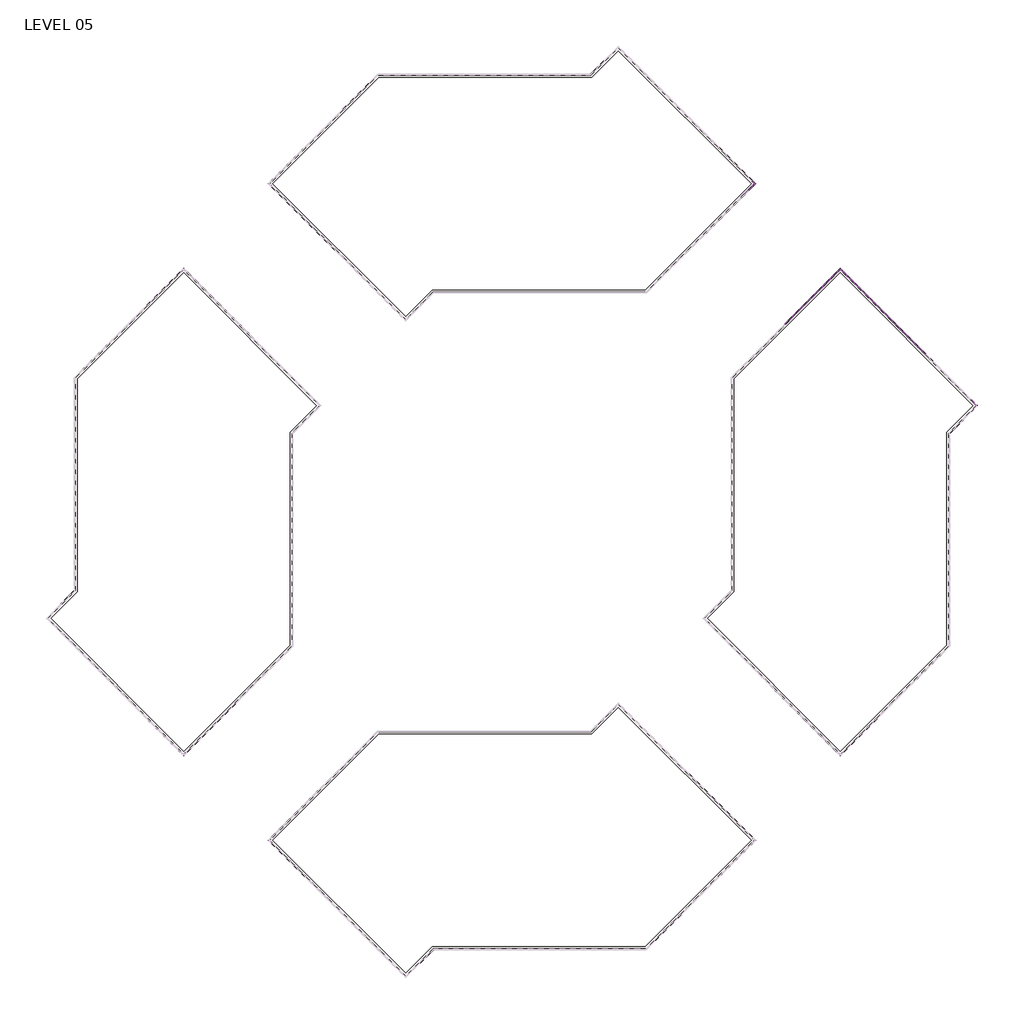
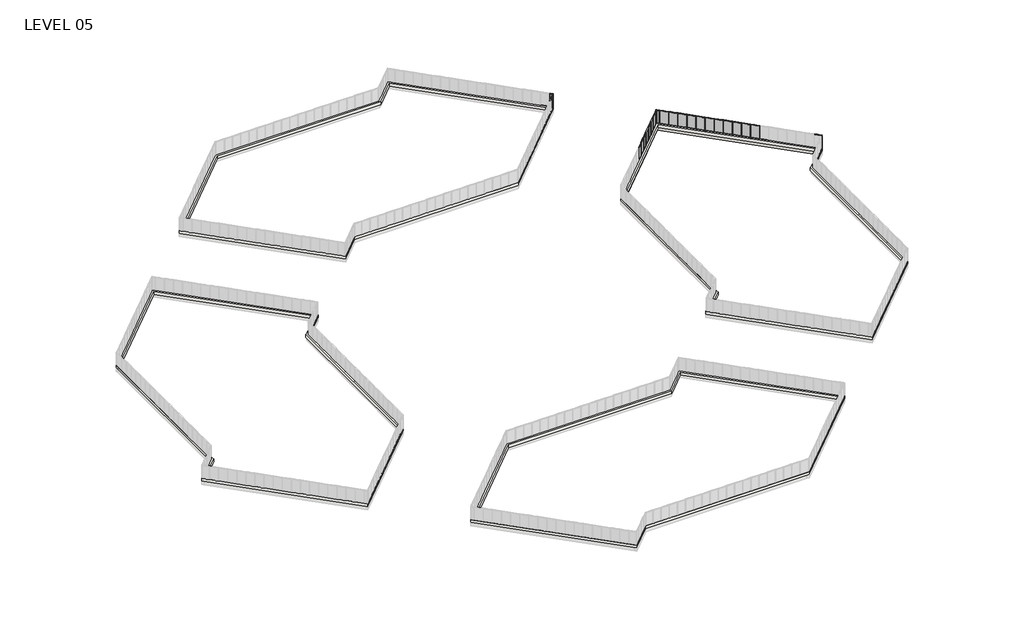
# One storey, part 17 of 17: 75 members, 22 plates, 4 slabs, 2 walls.
"""IFC4 building model written with IfcOpenShell, lengths in millimetres."""

from ifc_helpers import new_model, si_unit, frame, origin, place, context, project, spatial, polyline, outline, extrude, faceted_brep, transform, mapped, element, save
from components import member_5247f267, member_e44af9ab, member_800970d4, member_25b26a38, member_c23f844a, member_53409b32, member_ed9c17d6, member_0b71a88d, plate_6d527a83, plate_67294edd, plate_aaac5d3d, plate_50b9cd61, plate_048e4634, plate_e0fd5134, plate_62af1d3c, plate_dca6a18a

model = new_model("IFC4")

# Units and contexts
model_context = context("Model", 3, world=origin())
ifc_project = project(units=[si_unit("LENGTHUNIT", "METRE", prefix="MILLI")], contexts=[model_context])

# Site, building, storey
site = spatial("IfcSite", under=ifc_project)
building = spatial("IfcBuilding", under=site)
storey = spatial("IfcBuildingStorey", under=building, Name="LEVEL 05", Elevation=15824.2)

# Members
placement = place(None, origin())
member_shape = member_5247f267(model_context)
element("IfcMember", 1, ObjectType="Rectangular Mullion : 2\" x 4.5\" rectangular", at=placement, inside=storey, context=model_context, shape_type="MappedRepresentation", body=[
    mapped(member_shape, transform((64227.3404937, 104942.2679469, 15824.2), x_axis=(0.0, 0.0, -1.0), y_axis=(0.7071067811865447, 0.7071067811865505, 0.0), z_axis=(0.7071067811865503, -0.7071067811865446, 0.0))),
])
element("IfcMember", 2, ObjectType="Rectangular Mullion : 2\" x 4.5\" rectangular", at=placement, inside=storey, context=model_context, shape_type="MappedRepresentation", body=[
    mapped(member_shape, transform((64227.3404937, 104141.486663, 18415.0), x_axis=(0.0, 0.0, 1.0), y_axis=(0.7071067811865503, -0.7071067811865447, 0.0), z_axis=(0.7071067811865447, 0.7071067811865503, 0.0))),
])
member_2_shape = member_e44af9ab(model_context)
element("IfcMember", 3, ObjectType="Rectangular Mullion : 2\" x 4.5\" rectangular", at=placement, inside=storey, context=model_context, shape_type="MappedRepresentation", body=[
    mapped(member_2_shape, transform((64245.3010059, 104159.4471752, 15824.2), x_axis=(0.7071067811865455, 0.7071067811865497, 0.0), y_axis=(0.7071067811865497, -0.7071067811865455, 0.0), z_axis=(0.0, 0.0, -1.0))),
])
element("IfcMember", 4, ObjectType="Rectangular Mullion : 2\" x 4.5\" rectangular", at=placement, inside=storey, context=model_context, shape_type="MappedRepresentation", body=[
    mapped(member_2_shape, transform((64245.3010059, 104924.3074346, 15824.2), x_axis=(-0.7071067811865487, 0.7071067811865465, 0.0), y_axis=(0.7071067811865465, 0.7071067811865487, 0.0), z_axis=(0.0, 0.0, -1.0))),
])
member_3_shape = member_800970d4(model_context)
element("IfcMember", 5, ObjectType="Rectangular Mullion : 2\" x 4.5\" rectangular", at=placement, inside=storey, context=model_context, shape_type="MappedRepresentation", body=[
    mapped(member_3_shape, transform((64627.7311356, 104541.8773049, 15824.2), x_axis=(0.7071067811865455, 0.7071067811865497, 0.0), y_axis=(0.7071067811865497, -0.7071067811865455, 0.0), z_axis=(0.0, 0.0, -1.0))),
])
element("IfcMember", 6, ObjectType="Rectangular Mullion : 2\" x 4.5\" rectangular", at=placement, inside=storey, context=model_context, shape_type="MappedRepresentation", body=[
    mapped(member_3_shape, transform((64627.7311356, 104541.8773049, 18415.0), x_axis=(0.7071067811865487, -0.7071067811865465, 0.0), y_axis=(0.7071067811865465, 0.7071067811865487, 0.0), z_axis=(0.0, 0.0, 1.0))),
])
member_4_shape = member_25b26a38(model_context)
element("IfcMember", 7, ObjectType="Rectangular Mullion : 2\" x 4.5\" rectangular", at=placement, inside=storey, context=model_context, shape_type="MappedRepresentation", body=[
    mapped(member_4_shape, transform((64263.2615182, 104177.4076875, 15824.2), x_axis=(0.0, 0.0, -1.0), y_axis=(0.7071067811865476, -0.7071067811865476, 0.0), z_axis=(-0.7071067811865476, -0.7071067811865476, 0.0))),
])
element("IfcMember", 8, ObjectType="Rectangular Mullion : 2\" x 4.5\" rectangular", at=placement, inside=storey, context=model_context, shape_type="MappedRepresentation", body=[
    mapped(member_4_shape, transform((64591.8101111, 104577.7983294, 15824.2), x_axis=(0.0, 0.0, -1.0), y_axis=(0.7071067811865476, 0.7071067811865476, 0.0), z_axis=(0.7071067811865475, -0.7071067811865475, 0.0))),
])
element("IfcMember", 9, ObjectType="Rectangular Mullion : 2\" x 4.5\" rectangular", at=placement, inside=storey, context=model_context, shape_type="MappedRepresentation", body=[
    mapped(member_4_shape, transform((64591.8101111, 104505.9562804, 18415.0), x_axis=(0.0, 0.0, 1.0), y_axis=(0.7071067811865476, -0.7071067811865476, 0.0), z_axis=(0.7071067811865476, 0.7071067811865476, 0.0))),
])
element("IfcMember", 10, ObjectType="Rectangular Mullion : 2\" x 4.5\" rectangular", at=placement, inside=storey, context=model_context, shape_type="MappedRepresentation", body=[
    mapped(member_4_shape, transform((64263.2615182, 104906.3469224, 18415.0), x_axis=(0.0, 0.0, 1.0), y_axis=(0.7071067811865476, 0.7071067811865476, 0.0), z_axis=(-0.7071067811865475, 0.7071067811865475, 0.0))),
])
element("IfcMember", 11, ObjectType="Rectangular Mullion : 2\" x 4.5\" rectangular", at=placement, inside=storey, context=model_context, shape_type="MappedRepresentation", body=[
    mapped(member_shape, transform((69983.7142707, 85453.6032785, 18415.0), x_axis=(0.0, 0.0, 1.0), y_axis=(0.7071067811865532, -0.7071067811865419, 0.0), z_axis=(0.7071067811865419, 0.7071067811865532, 0.0))),
])
element("IfcMember", 12, ObjectType="Rectangular Mullion : 2\" x 4.5\" rectangular", at=placement, inside=storey, context=model_context, shape_type="MappedRepresentation", body=[
    mapped(member_shape, transform((71061.3302035, 86531.2192113, 18415.0), x_axis=(0.0, 0.0, 1.0), y_axis=(0.7071067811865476, -0.7071067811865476, 0.0), z_axis=(0.7071067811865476, 0.7071067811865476, 0.0))),
])
element("IfcMember", 13, ObjectType="Rectangular Mullion : 2\" x 4.5\" rectangular", at=placement, inside=storey, context=model_context, shape_type="MappedRepresentation", body=[
    mapped(member_shape, transform((73216.5768709, 88686.4658786, 18415.0), x_axis=(0.0, 0.0, 1.0), y_axis=(0.7071067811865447, -0.7071067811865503, 0.0), z_axis=(0.7071067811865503, 0.7071067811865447, 0.0))),
])
element("IfcMember", 14, ObjectType="Rectangular Mullion : 2\" x 4.5\" rectangular", at=placement, inside=storey, context=model_context, shape_type="MappedRepresentation", body=[
    mapped(member_shape, transform((72138.9535372, 87608.842545, 18415.0), x_axis=(0.0, 0.0, 1.0), y_axis=(0.7071067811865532, -0.7071067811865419, 0.0), z_axis=(0.7071067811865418, 0.7071067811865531, 0.0))),
])
element("IfcMember", 15, ObjectType="Rectangular Mullion : 2\" x 4.5\" rectangular", at=placement, inside=storey, context=model_context, shape_type="MappedRepresentation", body=[
    mapped(member_shape, transform((74294.2076054, 89764.0966131, 18415.0), x_axis=(0.0, 0.0, 1.0), y_axis=(0.7071067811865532, -0.7071067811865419, 0.0), z_axis=(0.7071067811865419, 0.7071067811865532, 0.0))),
])
element("IfcMember", 16, ObjectType="Rectangular Mullion : 2\" x 4.5\" rectangular", at=placement, inside=storey, context=model_context, shape_type="MappedRepresentation", body=[
    mapped(member_shape, transform((75371.8383399, 90841.7273477, 18415.0), x_axis=(0.0, 0.0, 1.0), y_axis=(0.7071067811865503, -0.7071067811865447, 0.0), z_axis=(0.7071067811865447, 0.7071067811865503, 0.0))),
])
element("IfcMember", 17, ObjectType="Rectangular Mullion : 2\" x 4.5\" rectangular", at=placement, inside=storey, context=model_context, shape_type="MappedRepresentation", body=[
    mapped(member_shape, transform((76449.4690745, 91919.3580822, 18415.0), x_axis=(0.0, 0.0, 1.0), y_axis=(0.7071067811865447, -0.7071067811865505, 0.0), z_axis=(0.7071067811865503, 0.7071067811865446, 0.0))),
])
element("IfcMember", 18, ObjectType="Rectangular Mullion : 2\" x 4.5\" rectangular", at=placement, inside=storey, context=model_context, shape_type="MappedRepresentation", body=[
    mapped(member_shape, transform((79369.5908029, 89800.0176376, 18415.0), x_axis=(0.0, 0.0, 1.0), y_axis=(-0.7071067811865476, -0.7071067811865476, 0.0), z_axis=(0.7071067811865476, -0.7071067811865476, 0.0))),
])
element("IfcMember", 19, ObjectType="Rectangular Mullion : 2\" x 4.5\" rectangular", at=placement, inside=storey, context=model_context, shape_type="MappedRepresentation", body=[
    mapped(member_shape, transform((80447.2215374, 88722.3869031, 18415.0), x_axis=(0.0, 0.0, 1.0), y_axis=(-0.7071067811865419, -0.7071067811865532, 0.0), z_axis=(0.7071067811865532, -0.7071067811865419, 0.0))),
])
element("IfcMember", 20, ObjectType="Rectangular Mullion : 2\" x 4.5\" rectangular", at=placement, inside=storey, context=model_context, shape_type="MappedRepresentation", body=[
    mapped(member_shape, transform((82602.447272, 86567.1611686, 18415.0), x_axis=(0.0, 0.0, 1.0), y_axis=(-0.7071067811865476, -0.7071067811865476, 0.0), z_axis=(0.7071067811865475, -0.7071067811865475, 0.0))),
])
element("IfcMember", 21, ObjectType="Rectangular Mullion : 2\" x 4.5\" rectangular", at=placement, inside=storey, context=model_context, shape_type="MappedRepresentation", body=[
    mapped(member_shape, transform((83680.042272, 85489.5661686, 18415.0), x_axis=(0.0, 0.0, 1.0), y_axis=(-0.7071067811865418, -0.7071067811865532, 0.0), z_axis=(0.7071067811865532, -0.7071067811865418, 0.0))),
])
element("IfcMember", 22, ObjectType="Rectangular Mullion : 2\" x 4.5\" rectangular", at=placement, inside=storey, context=model_context, shape_type="MappedRepresentation", body=[
    mapped(member_shape, transform((84757.637272, 84411.9711686, 18415.0), x_axis=(0.0, 0.0, 1.0), y_axis=(-0.7071067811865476, -0.7071067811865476, 0.0), z_axis=(0.7071067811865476, -0.7071067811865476, 0.0))),
])
element("IfcMember", 23, ObjectType="Rectangular Mullion : 2\" x 4.5\" rectangular", at=placement, inside=storey, context=model_context, shape_type="MappedRepresentation", body=[
    mapped(member_shape, transform((85835.232272, 83334.3761686, 18415.0), x_axis=(0.0, 0.0, 1.0), y_axis=(-0.7071067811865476, -0.7071067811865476, 0.0), z_axis=(0.7071067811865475, -0.7071067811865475, 0.0))),
])
element("IfcMember", 24, ObjectType="Rectangular Mullion : 2\" x 4.5\" rectangular", at=placement, inside=storey, context=model_context, shape_type="MappedRepresentation", body=[
    mapped(member_shape, transform((78291.9600684, 90877.6483722, 18415.0), x_axis=(0.0, 0.0, 1.0), y_axis=(-0.7071067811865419, -0.7071067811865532, 0.0), z_axis=(0.7071067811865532, -0.7071067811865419, 0.0))),
])
element("IfcMember", 25, ObjectType="Rectangular Mullion : 2\" x 4.5\" rectangular", at=placement, inside=storey, context=model_context, shape_type="MappedRepresentation", body=[
    mapped(member_shape, transform((81524.8344047, 87644.7740358, 18415.0), x_axis=(0.0, 0.0, 1.0), y_axis=(-0.7071067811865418, -0.7071067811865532, 0.0), z_axis=(0.7071067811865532, -0.7071067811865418, 0.0))),
])
element("IfcMember", 26, ObjectType="Rectangular Mullion : 2\" x 4.5\" rectangular", at=placement, inside=storey, context=model_context, shape_type="MappedRepresentation", body=[
    mapped(member_shape, transform((70019.6352952, 85489.524303, 15824.2), x_axis=(0.0, 0.0, -1.0), y_axis=(0.7071067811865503, -0.7071067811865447, 0.0), z_axis=(-0.7071067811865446, -0.7071067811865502, 0.0))),
])
element("IfcMember", 27, ObjectType="Rectangular Mullion : 2\" x 4.5\" rectangular", at=placement, inside=storey, context=model_context, shape_type="MappedRepresentation", body=[
    mapped(member_shape, transform((71097.251228, 86567.1402358, 15824.2), x_axis=(0.0, 0.0, -1.0), y_axis=(0.7071067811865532, -0.7071067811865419, 0.0), z_axis=(-0.7071067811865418, -0.7071067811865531, 0.0))),
])
element("IfcMember", 28, ObjectType="Rectangular Mullion : 2\" x 4.5\" rectangular", at=placement, inside=storey, context=model_context, shape_type="MappedRepresentation", body=[
    mapped(member_shape, transform((73252.4978954, 88722.3869031, 15824.2), x_axis=(0.0, 0.0, -1.0), y_axis=(0.7071067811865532, -0.7071067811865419, 0.0), z_axis=(-0.7071067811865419, -0.7071067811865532, 0.0))),
])
element("IfcMember", 29, ObjectType="Rectangular Mullion : 2\" x 4.5\" rectangular", at=placement, inside=storey, context=model_context, shape_type="MappedRepresentation", body=[
    mapped(member_shape, transform((72174.8745617, 87644.7635694, 15824.2), x_axis=(0.0, 0.0, -1.0), y_axis=(0.7071067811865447, -0.7071067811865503, 0.0), z_axis=(-0.7071067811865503, -0.7071067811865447, 0.0))),
])
element("IfcMember", 30, ObjectType="Rectangular Mullion : 2\" x 4.5\" rectangular", at=placement, inside=storey, context=model_context, shape_type="MappedRepresentation", body=[
    mapped(member_shape, transform((74330.1286299, 89800.0176376, 15824.2), x_axis=(0.0, 0.0, -1.0), y_axis=(0.7071067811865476, -0.7071067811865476, 0.0), z_axis=(-0.7071067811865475, -0.7071067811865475, 0.0))),
])
element("IfcMember", 31, ObjectType="Rectangular Mullion : 2\" x 4.5\" rectangular", at=placement, inside=storey, context=model_context, shape_type="MappedRepresentation", body=[
    mapped(member_shape, transform((75407.7593644, 90877.6483722, 15824.2), x_axis=(0.0, 0.0, -1.0), y_axis=(0.7071067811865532, -0.7071067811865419, 0.0), z_axis=(-0.7071067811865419, -0.7071067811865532, 0.0))),
])
element("IfcMember", 32, ObjectType="Rectangular Mullion : 2\" x 4.5\" rectangular", at=placement, inside=storey, context=model_context, shape_type="MappedRepresentation", body=[
    mapped(member_shape, transform((79405.5118274, 89764.0966131, 15824.2), x_axis=(0.0, 0.0, -1.0), y_axis=(-0.7071067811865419, -0.7071067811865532, 0.0), z_axis=(-0.7071067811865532, 0.7071067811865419, 0.0))),
])
element("IfcMember", 33, ObjectType="Rectangular Mullion : 2\" x 4.5\" rectangular", at=placement, inside=storey, context=model_context, shape_type="MappedRepresentation", body=[
    mapped(member_shape, transform((80483.1425619, 88686.4658786, 15824.2), x_axis=(0.0, 0.0, -1.0), y_axis=(-0.7071067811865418, -0.7071067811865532, 0.0), z_axis=(-0.7071067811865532, 0.7071067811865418, 0.0))),
])
element("IfcMember", 34, ObjectType="Rectangular Mullion : 2\" x 4.5\" rectangular", at=placement, inside=storey, context=model_context, shape_type="MappedRepresentation", body=[
    mapped(member_shape, transform((82638.3682965, 86531.2401441, 15824.2), x_axis=(0.0, 0.0, -1.0), y_axis=(-0.7071067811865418, -0.7071067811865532, 0.0), z_axis=(-0.7071067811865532, 0.7071067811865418, 0.0))),
])
element("IfcMember", 35, ObjectType="Rectangular Mullion : 2\" x 4.5\" rectangular", at=placement, inside=storey, context=model_context, shape_type="MappedRepresentation", body=[
    mapped(member_shape, transform((83715.9632965, 85453.6451441, 15824.2), x_axis=(0.0, 0.0, -1.0), y_axis=(-0.7071067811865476, -0.7071067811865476, 0.0), z_axis=(-0.7071067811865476, 0.7071067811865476, 0.0))),
])
element("IfcMember", 36, ObjectType="Rectangular Mullion : 2\" x 4.5\" rectangular", at=placement, inside=storey, context=model_context, shape_type="MappedRepresentation", body=[
    mapped(member_shape, transform((84793.5582965, 84376.0501441, 15824.2), x_axis=(0.0, 0.0, -1.0), y_axis=(-0.7071067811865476, -0.7071067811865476, 0.0), z_axis=(-0.7071067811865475, 0.7071067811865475, 0.0))),
])
element("IfcMember", 37, ObjectType="Rectangular Mullion : 2\" x 4.5\" rectangular", at=placement, inside=storey, context=model_context, shape_type="MappedRepresentation", body=[
    mapped(member_shape, transform((78327.8810929, 90841.7273477, 15824.2), x_axis=(0.0, 0.0, -1.0), y_axis=(-0.7071067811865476, -0.7071067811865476, 0.0), z_axis=(-0.7071067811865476, 0.7071067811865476, 0.0))),
])
element("IfcMember", 38, ObjectType="Rectangular Mullion : 2\" x 4.5\" rectangular", at=placement, inside=storey, context=model_context, shape_type="MappedRepresentation", body=[
    mapped(member_shape, transform((77250.2503583, 91919.3580822, 15824.2), x_axis=(0.0, 0.0, -1.0), y_axis=(-0.7071067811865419, -0.7071067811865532, 0.0), z_axis=(-0.7071067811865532, 0.7071067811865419, 0.0))),
])
element("IfcMember", 39, ObjectType="Rectangular Mullion : 2\" x 4.5\" rectangular", at=placement, inside=storey, context=model_context, shape_type="MappedRepresentation", body=[
    mapped(member_shape, transform((81560.7554292, 87608.8530114, 15824.2), x_axis=(0.0, 0.0, -1.0), y_axis=(-0.7071067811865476, -0.7071067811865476, 0.0), z_axis=(-0.7071067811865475, 0.7071067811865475, 0.0))),
])
element("IfcMember", 40, ObjectType="Rectangular Mullion : 2\" x 4.5\" rectangular", at=placement, inside=storey, context=model_context, shape_type="MappedRepresentation", body=[
    mapped(member_2_shape, transform((70001.674783, 85471.5637907, 15824.2), x_axis=(0.7071067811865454, 0.7071067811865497, 0.0), y_axis=(0.7071067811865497, -0.7071067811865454, 0.0), z_axis=(0.0, 0.0, -1.0))),
])
element("IfcMember", 41, ObjectType="Rectangular Mullion : 2\" x 4.5\" rectangular", at=placement, inside=storey, context=model_context, shape_type="MappedRepresentation", body=[
    mapped(member_2_shape, transform((71079.2907158, 86549.1797235, 15824.2), x_axis=(0.7071067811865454, 0.7071067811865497, 0.0), y_axis=(0.7071067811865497, -0.7071067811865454, 0.0), z_axis=(0.0, 0.0, -1.0))),
])
element("IfcMember", 42, ObjectType="Rectangular Mullion : 2\" x 4.5\" rectangular", at=placement, inside=storey, context=model_context, shape_type="MappedRepresentation", body=[
    mapped(member_2_shape, transform((73234.5373831, 88704.4263909, 15824.2), x_axis=(0.7071067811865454, 0.7071067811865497, 0.0), y_axis=(0.7071067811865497, -0.7071067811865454, 0.0), z_axis=(0.0, 0.0, -1.0))),
])
element("IfcMember", 43, ObjectType="Rectangular Mullion : 2\" x 4.5\" rectangular", at=placement, inside=storey, context=model_context, shape_type="MappedRepresentation", body=[
    mapped(member_2_shape, transform((72156.9140495, 87626.8030572, 15824.2), x_axis=(0.7071067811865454, 0.7071067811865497, 0.0), y_axis=(0.7071067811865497, -0.7071067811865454, 0.0), z_axis=(0.0, 0.0, -1.0))),
])
element("IfcMember", 44, ObjectType="Rectangular Mullion : 2\" x 4.5\" rectangular", at=placement, inside=storey, context=model_context, shape_type="MappedRepresentation", body=[
    mapped(member_2_shape, transform((74312.1681176, 89782.0571254, 15824.2), x_axis=(0.7071067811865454, 0.7071067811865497, 0.0), y_axis=(0.7071067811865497, -0.7071067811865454, 0.0), z_axis=(0.0, 0.0, -1.0))),
])
element("IfcMember", 45, ObjectType="Rectangular Mullion : 2\" x 4.5\" rectangular", at=placement, inside=storey, context=model_context, shape_type="MappedRepresentation", body=[
    mapped(member_2_shape, transform((75389.7988522, 90859.6878599, 15824.2), x_axis=(0.7071067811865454, 0.7071067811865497, 0.0), y_axis=(0.7071067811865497, -0.7071067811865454, 0.0), z_axis=(0.0, 0.0, -1.0))),
])
element("IfcMember", 46, ObjectType="Rectangular Mullion : 2\" x 4.5\" rectangular", at=placement, inside=storey, context=model_context, shape_type="MappedRepresentation", body=[
    mapped(member_2_shape, transform((76467.4295867, 91937.3185944, 15824.2), x_axis=(0.7071067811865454, 0.7071067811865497, 0.0), y_axis=(0.7071067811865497, -0.7071067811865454, 0.0), z_axis=(0.0, 0.0, -1.0))),
])
element("IfcMember", 47, ObjectType="Rectangular Mullion : 2\" x 4.5\" rectangular", at=placement, inside=storey, context=model_context, shape_type="MappedRepresentation", body=[
    mapped(member_2_shape, transform((79387.5513152, 89782.0571254, 15824.2), x_axis=(0.7071067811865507, -0.7071067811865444, 0.0), y_axis=(-0.7071067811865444, -0.7071067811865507, 0.0), z_axis=(0.0, 0.0, -1.0))),
])
element("IfcMember", 48, ObjectType="Rectangular Mullion : 2\" x 4.5\" rectangular", at=placement, inside=storey, context=model_context, shape_type="MappedRepresentation", body=[
    mapped(member_2_shape, transform((80465.1820497, 88704.4263909, 15824.2), x_axis=(0.7071067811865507, -0.7071067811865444, 0.0), y_axis=(-0.7071067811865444, -0.7071067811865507, 0.0), z_axis=(0.0, 0.0, -1.0))),
])
element("IfcMember", 49, ObjectType="Rectangular Mullion : 2\" x 4.5\" rectangular", at=placement, inside=storey, context=model_context, shape_type="MappedRepresentation", body=[
    mapped(member_2_shape, transform((82620.4077842, 86549.2006563, 15824.2), x_axis=(0.7071067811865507, -0.7071067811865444, 0.0), y_axis=(-0.7071067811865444, -0.7071067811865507, 0.0), z_axis=(0.0, 0.0, -1.0))),
])
element("IfcMember", 50, ObjectType="Rectangular Mullion : 2\" x 4.5\" rectangular", at=placement, inside=storey, context=model_context, shape_type="MappedRepresentation", body=[
    mapped(member_2_shape, transform((83698.0027842, 85471.6056563, 15824.2), x_axis=(0.7071067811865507, -0.7071067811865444, 0.0), y_axis=(-0.7071067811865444, -0.7071067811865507, 0.0), z_axis=(0.0, 0.0, -1.0))),
])
element("IfcMember", 51, ObjectType="Rectangular Mullion : 2\" x 4.5\" rectangular", at=placement, inside=storey, context=model_context, shape_type="MappedRepresentation", body=[
    mapped(member_2_shape, transform((84775.5977842, 84394.0106563, 15824.2), x_axis=(0.7071067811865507, -0.7071067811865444, 0.0), y_axis=(-0.7071067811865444, -0.7071067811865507, 0.0), z_axis=(0.0, 0.0, -1.0))),
])
element("IfcMember", 52, ObjectType="Rectangular Mullion : 2\" x 4.5\" rectangular", at=placement, inside=storey, context=model_context, shape_type="MappedRepresentation", body=[
    mapped(member_2_shape, transform((85853.1927842, 83316.4156563, 15824.2), x_axis=(0.7071067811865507, -0.7071067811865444, 0.0), y_axis=(-0.7071067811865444, -0.7071067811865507, 0.0), z_axis=(0.0, 0.0, -1.0))),
])
element("IfcMember", 53, ObjectType="Rectangular Mullion : 2\" x 4.5\" rectangular", at=placement, inside=storey, context=model_context, shape_type="MappedRepresentation", body=[
    mapped(member_2_shape, transform((88002.431194, 81167.1772465, 15824.2), x_axis=(0.7071067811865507, -0.7071067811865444, 0.0), y_axis=(-0.7071067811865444, -0.7071067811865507, 0.0), z_axis=(0.0, 0.0, -1.0))),
])
element("IfcMember", 54, ObjectType="Rectangular Mullion : 2\" x 4.5\" rectangular", at=placement, inside=storey, context=model_context, shape_type="MappedRepresentation", body=[
    mapped(member_2_shape, transform((89074.0746038, 80095.5338367, 15824.2), x_axis=(0.7071067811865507, -0.7071067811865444, 0.0), y_axis=(-0.7071067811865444, -0.7071067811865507, 0.0), z_axis=(0.0, 0.0, -1.0))),
])
element("IfcMember", 55, ObjectType="Rectangular Mullion : 2\" x 4.5\" rectangular", at=placement, inside=storey, context=model_context, shape_type="MappedRepresentation", body=[
    mapped(member_2_shape, transform((78309.9205806, 90859.6878599, 15824.2), x_axis=(0.7071067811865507, -0.7071067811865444, 0.0), y_axis=(-0.7071067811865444, -0.7071067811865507, 0.0), z_axis=(0.0, 0.0, -1.0))),
])
element("IfcMember", 56, ObjectType="Rectangular Mullion : 2\" x 4.5\" rectangular", at=placement, inside=storey, context=model_context, shape_type="MappedRepresentation", body=[
    mapped(member_2_shape, transform((77232.2898461, 91937.3185944, 15824.2), x_axis=(0.7071067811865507, -0.7071067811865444, 0.0), y_axis=(-0.7071067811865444, -0.7071067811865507, 0.0), z_axis=(0.0, 0.0, -1.0))),
])
element("IfcMember", 57, ObjectType="Rectangular Mullion : 2\" x 4.5\" rectangular", at=placement, inside=storey, context=model_context, shape_type="MappedRepresentation", body=[
    mapped(member_2_shape, transform((81542.794917, 87626.8135236, 15824.2), x_axis=(0.7071067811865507, -0.7071067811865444, 0.0), y_axis=(-0.7071067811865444, -0.7071067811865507, 0.0), z_axis=(0.0, 0.0, -1.0))),
])
element("IfcMember", 58, ObjectType="Rectangular Mullion : 2\" x 4.5\" rectangular", at=placement, inside=storey, context=model_context, shape_type="MappedRepresentation", body=[
    mapped(member_2_shape, transform((86927.8119891, 82241.7964514, 15824.2), x_axis=(0.7071067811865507, -0.7071067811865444, 0.0), y_axis=(-0.7071067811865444, -0.7071067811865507, 0.0), z_axis=(0.0, 0.0, -1.0))),
])
element("IfcMember", 59, ObjectType="Rectangular Mullion : 2\" x 4.5\" rectangular", at=placement, inside=storey, context=model_context, shape_type="MappedRepresentation", body=[
    mapped(member_3_shape, transform((76849.8597164, 92319.7487241, 15824.2), x_axis=(0.7071067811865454, 0.7071067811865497, 0.0), y_axis=(0.7071067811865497, -0.7071067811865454, 0.0), z_axis=(0.0, 0.0, -1.0))),
])
element("IfcMember", 60, ObjectType="Rectangular Mullion : 2\" x 4.5\" rectangular", at=placement, inside=storey, context=model_context, shape_type="MappedRepresentation", body=[
    mapped(member_3_shape, transform((96411.640852, 72757.9675885, 15824.2), x_axis=(0.7071067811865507, -0.7071067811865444, 0.0), y_axis=(-0.7071067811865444, -0.7071067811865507, 0.0), z_axis=(0.0, 0.0, -1.0))),
])
element("IfcMember", 61, ObjectType="Rectangular Mullion : 2\" x 4.5\" rectangular", at=placement, inside=storey, context=model_context, shape_type="MappedRepresentation", body=[
    mapped(member_3_shape, transform((76849.8597164, 92319.7487241, 18415.0), x_axis=(-0.7071067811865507, 0.7071067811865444, 0.0), y_axis=(-0.7071067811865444, -0.7071067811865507, 0.0), z_axis=(0.0, 0.0, 1.0))),
])
element("IfcMember", 62, ObjectType="Rectangular Mullion : 2\" x 4.5\" rectangular", at=placement, inside=storey, context=model_context, shape_type="MappedRepresentation", body=[
    mapped(member_3_shape, transform((96411.640852, 72757.9675885, 18415.0), x_axis=(0.7071067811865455, 0.7071067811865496, 0.0), y_axis=(-0.7071067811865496, 0.7071067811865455, 0.0), z_axis=(0.0, 0.0, 1.0))),
])
member_5_shape = member_c23f844a(model_context)
element("IfcMember", 63, ObjectType="Rectangular Mullion : 2\" x 4.5\" rectangular", at=placement, inside=storey, context=model_context, shape_type="MappedRepresentation", body=[
    mapped(member_5_shape, transform((89056.1140916, 80113.494349, 18415.0), x_axis=(0.0, 0.0, 1.0), y_axis=(-0.7071067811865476, -0.7071067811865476, 0.0), z_axis=(0.7071067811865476, -0.7071067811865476, 0.0))),
])
element("IfcMember", 64, ObjectType="Rectangular Mullion : 2\" x 4.5\" rectangular", at=placement, inside=storey, context=model_context, shape_type="MappedRepresentation", body=[
    mapped(member_5_shape, transform((88020.3917063, 81149.2167343, 15824.2), x_axis=(0.0, 0.0, -1.0), y_axis=(-0.7071067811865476, -0.7071067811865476, 0.0), z_axis=(-0.7071067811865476, 0.7071067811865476, 0.0))),
])
element("IfcMember", 65, ObjectType="Rectangular Mullion : 2\" x 4.5\" rectangular", at=placement, inside=storey, context=model_context, shape_type="MappedRepresentation", body=[
    mapped(member_5_shape, transform((89092.035116, 80077.5733245, 15824.2), x_axis=(0.0, 0.0, -1.0), y_axis=(-0.7071067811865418, -0.7071067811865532, 0.0), z_axis=(-0.7071067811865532, 0.7071067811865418, 0.0))),
])
element("IfcMember", 66, ObjectType="Rectangular Mullion : 2\" x 4.5\" rectangular", at=placement, inside=storey, context=model_context, shape_type="MappedRepresentation", body=[
    mapped(member_4_shape, transform((76813.9386919, 92283.8276997, 18415.0), x_axis=(0.0, 0.0, 1.0), y_axis=(0.7071067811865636, -0.7071067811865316, 0.0), z_axis=(0.7071067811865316, 0.7071067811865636, 0.0))),
])
element("IfcMember", 67, ObjectType="Rectangular Mullion : 2\" x 4.5\" rectangular", at=placement, inside=storey, context=model_context, shape_type="MappedRepresentation", body=[
    mapped(member_4_shape, transform((77214.3293339, 91955.2791067, 18415.0), x_axis=(0.0, 0.0, 1.0), y_axis=(-0.7071067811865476, -0.7071067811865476, 0.0), z_axis=(0.7071067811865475, -0.7071067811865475, 0.0))),
])
element("IfcMember", 68, ObjectType="Rectangular Mullion : 2\" x 4.5\" rectangular", at=placement, inside=storey, context=model_context, shape_type="MappedRepresentation", body=[
    mapped(member_4_shape, transform((76485.3900989, 91955.2791067, 15824.2), x_axis=(0.0, 0.0, -1.0), y_axis=(0.7071067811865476, -0.7071067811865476, 0.0), z_axis=(-0.7071067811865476, -0.7071067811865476, 0.0))),
])
element("IfcMember", 69, ObjectType="Rectangular Mullion : 2\" x 4.5\" rectangular", at=placement, inside=storey, context=model_context, shape_type="MappedRepresentation", body=[
    mapped(member_4_shape, transform((76885.7807409, 92283.8276997, 15824.2), x_axis=(0.0, 0.0, -1.0), y_axis=(-0.7071067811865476, -0.7071067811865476, 0.0), z_axis=(-0.7071067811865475, 0.7071067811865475, 0.0))),
])
member_6_shape = member_53409b32(model_context)
element("IfcMember", 70, ObjectType="Rectangular Mullion : 2\" x 4.5\" rectangular", at=placement, inside=storey, context=model_context, shape_type="MappedRepresentation", body=[
    mapped(member_6_shape, transform((96375.7198275, 72793.888613, 18415.0), x_axis=(0.0, 0.0, 1.0), y_axis=(-0.7071067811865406, -0.7071067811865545, 0.0), z_axis=(0.7071067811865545, -0.7071067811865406, 0.0))),
])
member_7_shape = member_ed9c17d6(model_context)
element("IfcMember", 71, ObjectType="Rectangular Mullion : 2\" x 4.5\" rectangular", at=placement, inside=storey, context=model_context, shape_type="MappedRepresentation", body=[
    mapped(member_7_shape, transform((87984.4706818, 81185.1377588, 18415.0), x_axis=(0.0, 0.0, 1.0), y_axis=(-0.7071067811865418, -0.7071067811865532, 0.0), z_axis=(0.7071067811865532, -0.7071067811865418, 0.0))),
])
element("IfcMember", 72, ObjectType="Rectangular Mullion : 2\" x 4.5\" rectangular", at=placement, inside=storey, context=model_context, shape_type="MappedRepresentation", body=[
    mapped(member_7_shape, transform((86909.8514769, 82259.7569637, 18415.0), x_axis=(0.0, 0.0, 1.0), y_axis=(-0.7071067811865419, -0.7071067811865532, 0.0), z_axis=(0.7071067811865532, -0.7071067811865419, 0.0))),
])
element("IfcMember", 73, ObjectType="Rectangular Mullion : 2\" x 4.5\" rectangular", at=placement, inside=storey, context=model_context, shape_type="MappedRepresentation", body=[
    mapped(member_7_shape, transform((85871.1532965, 83298.4551441, 15824.2), x_axis=(0.0, 0.0, -1.0), y_axis=(-0.7071067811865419, -0.7071067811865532, 0.0), z_axis=(-0.7071067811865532, 0.7071067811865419, 0.0))),
])
element("IfcMember", 74, ObjectType="Rectangular Mullion : 2\" x 4.5\" rectangular", at=placement, inside=storey, context=model_context, shape_type="MappedRepresentation", body=[
    mapped(member_7_shape, transform((86945.7725014, 82223.8359392, 15824.2), x_axis=(0.0, 0.0, -1.0), y_axis=(-0.7071067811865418, -0.7071067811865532, 0.0), z_axis=(-0.7071067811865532, 0.7071067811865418, 0.0))),
])
member_8_shape = member_0b71a88d(model_context)
element("IfcMember", 75, ObjectType="Rectangular Mullion : 2\" x 4.5\" rectangular", at=placement, inside=storey, context=model_context, shape_type="MappedRepresentation", body=[
    mapped(member_8_shape, transform((96375.7198275, 72722.046564, 15824.2), x_axis=(0.0, 0.0, -1.0), y_axis=(-0.7071067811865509, 0.7071067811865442, 0.0), z_axis=(0.7071067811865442, 0.7071067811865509, 0.0))),
])

# Plates
plate_shape = plate_6d527a83(model_context)
element("IfcPlate", 76, ObjectType="System Panel : 1/4\" Glass", at=placement, inside=storey, context=model_context, shape_type="MappedRepresentation", body=[
    mapped(plate_shape, transform((64427.5358147, 104341.681984, 15875.0), x_axis=(0.7071067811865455, 0.7071067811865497, 0.0), y_axis=(-0.7071067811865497, 0.7071067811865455, 0.0), z_axis=(0.0, 0.0, 1.0))),
])
element("IfcPlate", 77, ObjectType="System Panel : 1/4\" Glass", at=placement, inside=storey, context=model_context, shape_type="MappedRepresentation", body=[
    mapped(plate_shape, transform((64427.5358147, 104742.0726259, 15875.0), x_axis=(-0.7071067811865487, 0.7071067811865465, 0.0), y_axis=(-0.7071067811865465, -0.7071067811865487, 0.0), z_axis=(0.0, 0.0, 1.0))),
])
plate_2_shape = plate_67294edd(model_context)
element("IfcPlate", 78, ObjectType="System Panel : 1/4\" Glass", at=placement, inside=storey, context=model_context, shape_type="MappedRepresentation", body=[
    mapped(plate_2_shape, transform((73773.3527504, 89243.2417581, 15875.0), x_axis=(0.7071067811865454, 0.7071067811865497, 0.0), y_axis=(-0.7071067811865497, 0.7071067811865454, 0.0), z_axis=(0.0, 0.0, 1.0))),
])
element("IfcPlate", 79, ObjectType="System Panel : 1/4\" Glass", at=placement, inside=storey, context=model_context, shape_type="MappedRepresentation", body=[
    mapped(plate_2_shape, transform((74850.9834849, 90320.8724927, 15875.0), x_axis=(0.7071067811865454, 0.7071067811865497, 0.0), y_axis=(-0.7071067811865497, 0.7071067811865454, 0.0), z_axis=(0.0, 0.0, 1.0))),
])
element("IfcPlate", 80, ObjectType="System Panel : 1/4\" Glass", at=placement, inside=storey, context=model_context, shape_type="MappedRepresentation", body=[
    mapped(plate_2_shape, transform((75928.6142194, 91398.5032272, 15875.0), x_axis=(0.7071067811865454, 0.7071067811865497, 0.0), y_axis=(-0.7071067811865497, 0.7071067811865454, 0.0), z_axis=(0.0, 0.0, 1.0))),
])
element("IfcPlate", 81, ObjectType="System Panel : 1/4\" Glass", at=placement, inside=storey, context=model_context, shape_type="MappedRepresentation", body=[
    mapped(plate_2_shape, transform((79926.3666824, 89243.2417581, 15875.0), x_axis=(0.7071067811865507, -0.7071067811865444, 0.0), y_axis=(0.7071067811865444, 0.7071067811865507, 0.0), z_axis=(0.0, 0.0, 1.0))),
])
element("IfcPlate", 82, ObjectType="System Panel : 1/4\" Glass", at=placement, inside=storey, context=model_context, shape_type="MappedRepresentation", body=[
    mapped(plate_2_shape, transform((78848.7359479, 90320.8724927, 15875.0), x_axis=(0.7071067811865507, -0.7071067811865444, 0.0), y_axis=(0.7071067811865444, 0.7071067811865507, 0.0), z_axis=(0.0, 0.0, 1.0))),
])
element("IfcPlate", 83, ObjectType="System Panel : 1/4\" Glass", at=placement, inside=storey, context=model_context, shape_type="MappedRepresentation", body=[
    mapped(plate_2_shape, transform((77771.1052134, 91398.5032272, 15875.0), x_axis=(0.7071067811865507, -0.7071067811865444, 0.0), y_axis=(0.7071067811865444, 0.7071067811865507, 0.0), z_axis=(0.0, 0.0, 1.0))),
])
plate_3_shape = plate_aaac5d3d(model_context)
element("IfcPlate", 84, ObjectType="System Panel : 1/4\" Glass", at=placement, inside=storey, context=model_context, shape_type="MappedRepresentation", body=[
    mapped(plate_3_shape, transform((69462.8668166, 84932.7558243, 15875.0), x_axis=(0.7071067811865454, 0.7071067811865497, 0.0), y_axis=(-0.7071067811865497, 0.7071067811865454, 0.0), z_axis=(0.0, 0.0, 1.0))),
])
element("IfcPlate", 85, ObjectType="System Panel : 1/4\" Glass", at=placement, inside=storey, context=model_context, shape_type="MappedRepresentation", body=[
    mapped(plate_3_shape, transform((70540.4827494, 86010.3717571, 15875.0), x_axis=(0.7071067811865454, 0.7071067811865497, 0.0), y_axis=(-0.7071067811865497, 0.7071067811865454, 0.0), z_axis=(0.0, 0.0, 1.0))),
])
plate_4_shape = plate_50b9cd61(model_context)
element("IfcPlate", 86, ObjectType="System Panel : 1/4\" Glass", at=placement, inside=storey, context=model_context, shape_type="MappedRepresentation", body=[
    mapped(plate_4_shape, transform((88538.2528989, 80631.3555416, 15875.0), x_axis=(0.7071067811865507, -0.7071067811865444, 0.0), y_axis=(0.7071067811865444, 0.7071067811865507, 0.0), z_axis=(0.0, 0.0, 1.0))),
])
plate_5_shape = plate_048e4634(model_context)
element("IfcPlate", 87, ObjectType="System Panel : 1/4\" Glass", at=placement, inside=storey, context=model_context, shape_type="MappedRepresentation", body=[
    mapped(plate_5_shape, transform((83159.2052842, 86010.4031563, 15875.0), x_axis=(0.7071067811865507, -0.7071067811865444, 0.0), y_axis=(0.7071067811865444, 0.7071067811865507, 0.0), z_axis=(0.0, 0.0, 1.0))),
])
element("IfcPlate", 88, ObjectType="System Panel : 1/4\" Glass", at=placement, inside=storey, context=model_context, shape_type="MappedRepresentation", body=[
    mapped(plate_5_shape, transform((84236.8002842, 84932.8081563, 15875.0), x_axis=(0.7071067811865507, -0.7071067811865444, 0.0), y_axis=(0.7071067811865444, 0.7071067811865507, 0.0), z_axis=(0.0, 0.0, 1.0))),
])
element("IfcPlate", 89, ObjectType="System Panel : 1/4\" Glass", at=placement, inside=storey, context=model_context, shape_type="MappedRepresentation", body=[
    mapped(plate_5_shape, transform((85314.3952842, 83855.2131563, 15875.0), x_axis=(0.7071067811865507, -0.7071067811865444, 0.0), y_axis=(0.7071067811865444, 0.7071067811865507, 0.0), z_axis=(0.0, 0.0, 1.0))),
])
plate_6_shape = plate_e0fd5134(model_context)
element("IfcPlate", 90, ObjectType="System Panel : 1/4\" Glass", at=placement, inside=storey, context=model_context, shape_type="MappedRepresentation", body=[
    mapped(plate_6_shape, transform((71618.1023826, 87087.9913904, 15875.0), x_axis=(0.7071067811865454, 0.7071067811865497, 0.0), y_axis=(-0.7071067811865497, 0.7071067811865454, 0.0), z_axis=(0.0, 0.0, 1.0))),
])
element("IfcPlate", 91, ObjectType="System Panel : 1/4\" Glass", at=placement, inside=storey, context=model_context, shape_type="MappedRepresentation", body=[
    mapped(plate_6_shape, transform((72695.7257163, 88165.614724, 15875.0), x_axis=(0.7071067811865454, 0.7071067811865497, 0.0), y_axis=(-0.7071067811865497, 0.7071067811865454, 0.0), z_axis=(0.0, 0.0, 1.0))),
])
element("IfcPlate", 92, ObjectType="System Panel : 1/4\" Glass", at=placement, inside=storey, context=model_context, shape_type="MappedRepresentation", body=[
    mapped(plate_shape, transform((76649.6643954, 92119.5534032, 15875.0), x_axis=(0.7071067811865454, 0.7071067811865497, 0.0), y_axis=(-0.7071067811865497, 0.7071067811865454, 0.0), z_axis=(0.0, 0.0, 1.0))),
])
element("IfcPlate", 93, ObjectType="System Panel : 1/4\" Glass", at=placement, inside=storey, context=model_context, shape_type="MappedRepresentation", body=[
    mapped(plate_shape, transform((77050.0550374, 92119.5534032, 15875.0), x_axis=(0.7071067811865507, -0.7071067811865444, 0.0), y_axis=(0.7071067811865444, 0.7071067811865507, 0.0), z_axis=(0.0, 0.0, 1.0))),
])
plate_7_shape = plate_62af1d3c(model_context)
element("IfcPlate", 94, ObjectType="System Panel : 1/4\" Glass", at=placement, inside=storey, context=model_context, shape_type="MappedRepresentation", body=[
    mapped(plate_7_shape, transform((81003.9884833, 88165.6199572, 15875.0), x_axis=(0.7071067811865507, -0.7071067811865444, 0.0), y_axis=(0.7071067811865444, 0.7071067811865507, 0.0), z_axis=(0.0, 0.0, 1.0))),
])
element("IfcPlate", 95, ObjectType="System Panel : 1/4\" Glass", at=placement, inside=storey, context=model_context, shape_type="MappedRepresentation", body=[
    mapped(plate_7_shape, transform((82081.6013506, 87088.00709, 15875.0), x_axis=(0.7071067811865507, -0.7071067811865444, 0.0), y_axis=(0.7071067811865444, 0.7071067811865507, 0.0), z_axis=(0.0, 0.0, 1.0))),
])
plate_8_shape = plate_dca6a18a(model_context)
element("IfcPlate", 96, ObjectType="System Panel : 1/4\" Glass", at=placement, inside=storey, context=model_context, shape_type="MappedRepresentation", body=[
    mapped(plate_8_shape, transform((86390.5023867, 82779.1060539, 15875.0), x_axis=(0.7071067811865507, -0.7071067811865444, 0.0), y_axis=(0.7071067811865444, 0.7071067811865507, 0.0), z_axis=(0.0, 0.0, 1.0))),
])
element("IfcPlate", 97, ObjectType="System Panel : 1/4\" Glass", at=placement, inside=storey, context=model_context, shape_type="MappedRepresentation", body=[
    mapped(plate_8_shape, transform((87465.1215916, 81704.486849, 15875.0), x_axis=(0.7071067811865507, -0.7071067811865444, 0.0), y_axis=(0.7071067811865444, 0.7071067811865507, 0.0), z_axis=(0.0, 0.0, 1.0))),
])

# Slabs
element("IfcSlab", 98, ObjectType="1'10\" Concrete Slab", at=placement, inside=storey, context=model_context, shape_type="SweptSolid", body=[
    extrude(outline(polyline([(-5056.6534407, 10494.0578721), (10586.5715593, 26137.2828721), (41066.5715593, 26137.2828721), (45065.95, 30136.6613128), (64708.5534407, 10494.0578721), (49065.3284407, -5149.1671279), (18585.3284407, -5149.1671279), (14585.95, -9148.5455686), (-5056.6534407, 10494.0578721)]), holes=[polyline([(41255.95, 25680.0828721), (10775.95, 25680.0828721), (-4410.075, 10494.0578721), (14585.95, -8501.9671279), (18395.95, -4691.9671279), (48875.95, -4691.9671279), (64061.975, 10494.0578721), (45065.95, 29490.0828721), (41255.95, 25680.0828721)])]), frame((0.0, 0.0, 15265.4), z_axis=(0.0, 0.0, 1.0), x_axis=(1.0, 0.0, 0.0)), (0.0, 0.0, 1.0), 558.8),
])
element("IfcSlab", 99, ObjectType="1'10\" Concrete Slab", at=placement, inside=storey, context=model_context, shape_type="SweptSolid", body=[
    extrude(outline(polyline([(76849.8597164, 92400.5710292), (96492.4631571, 72757.9675885), (92493.0847164, 68758.5891478), (92493.0847164, 38278.5891478), (76849.8597164, 22635.3641478), (57207.2562757, 42277.9675885), (61206.6347164, 46277.3460292), (61206.6347164, 76757.3460292), (76849.8597164, 92400.5710292)]), holes=[polyline([(61663.8347164, 46087.9675885), (57853.8347164, 42277.9675885), (76849.8597164, 23281.9425885), (92035.8847164, 38467.9675885), (92035.8847164, 68947.9675885), (95845.8847164, 72757.9675885), (76849.8597164, 91753.9925885), (61663.8347164, 76567.9675885), (61663.8347164, 46087.9675885)])]), frame((0.0, 0.0, 15265.4), z_axis=(0.0, 0.0, 1.0), x_axis=(1.0, 0.0, 0.0)), (0.0, 0.0, 1.0), 558.8),
])
element("IfcSlab", 100, ObjectType="1'10\" Concrete Slab", at=placement, inside=storey, context=model_context, shape_type="SweptSolid", body=[
    extrude(outline(polyline([(64708.5534407, 104541.8773049), (49065.3284407, 88898.6523049), (18585.3284407, 88898.6523049), (14585.95, 84899.2738642), (-5056.6534407, 104541.8773049), (10586.5715593, 120185.1023049), (41066.5715593, 120185.1023049), (45065.95, 124184.4807456), (64708.5534407, 104541.8773049)]), holes=[polyline([(18395.95, 89355.8523049), (48875.95, 89355.8523049), (64061.975, 104541.8773049), (45065.95, 123537.9023049), (41255.95, 119727.9023049), (10775.95, 119727.9023049), (-4410.075, 104541.8773049), (14585.95, 85545.8523049), (18395.95, 89355.8523049)])]), frame((0.0, 0.0, 15265.4), z_axis=(0.0, 0.0, 1.0), x_axis=(1.0, 0.0, 0.0)), (0.0, 0.0, 1.0), 558.8),
])
element("IfcSlab", 101, ObjectType="1'10\" Concrete Slab", at=placement, inside=storey, context=model_context, shape_type="SweptSolid", body=[
    extrude(outline(polyline([(-17197.9597164, 22635.3641478), (-36840.5631571, 42277.9675885), (-32841.1847164, 46277.3460292), (-32841.1847164, 76757.3460292), (-17197.9597164, 92400.5710292), (2444.6437243, 72757.9675885), (-1554.7347164, 68758.5891478), (-1554.7347164, 38278.5891478), (-17197.9597164, 22635.3641478)]), holes=[polyline([(-2011.9347164, 68947.9675885), (1798.0652836, 72757.9675885), (-17197.9597164, 91753.9925885), (-32383.9847164, 76567.9675885), (-32383.9847164, 46087.9675885), (-36193.9847164, 42277.9675885), (-17197.9597164, 23281.9425885), (-2011.9347164, 38467.9675885), (-2011.9347164, 68947.9675885)])]), frame((0.0, 0.0, 15265.4), z_axis=(0.0, 0.0, 1.0), x_axis=(1.0, 0.0, 0.0)), (0.0, 0.0, 1.0), 558.8),
])

# Walls
element("IfcWall", 102, ObjectType="01-CONCRETE-12", at=placement, inside=storey, context=model_context, shape_type="Brep", body=[
    faceted_brep([(96276.9370102, 72973.4937354, 14643.1), (76849.8597164, 92400.5710292, 14643.1), (76849.8597164, 92400.5710292, 15265.4), (96276.9370102, 72973.4937354, 15265.4), (96061.4108633, 72757.9675885, 14643.1), (96061.4108633, 72757.9675885, 15265.4), (76849.8597164, 91969.5187354, 15265.4), (76634.3335695, 92185.0448823, 15265.4), (76634.3335695, 92185.0448823, 14643.1), (76849.8597164, 91969.5187354, 14643.1)], [[[0, 1, 2, 3]], [[4, 5, 6, 7, 8, 9]], [[1, 0, 4, 9, 8]], [[3, 2, 7, 6, 5]], [[0, 3, 5, 4]], [[2, 1, 8, 7]]]),
])
element("IfcWall", 103, ObjectType="01-CONCRETE-12", at=placement, inside=storey, context=model_context, shape_type="Brep", body=[
    faceted_brep([(76634.3335695, 92185.0448823, 14643.1), (61511.4347164, 77062.1460292, 14643.1), (61511.4347164, 77062.1460292, 15265.4), (76634.3335695, 92185.0448823, 15265.4), (76849.8597164, 91969.5187354, 14643.1), (76849.8597164, 91969.5187354, 15265.4), (72547.5477899, 87667.2068089, 15265.4), (72116.495496, 87236.1545151, 15265.4), (61801.3557409, 76921.0147599, 15265.4), (61511.4347164, 76631.0937354, 15265.4), (61511.4347164, 76631.0937354, 14643.1), (61801.3557409, 76921.0147599, 14643.1), (72116.495496, 87236.1545151, 14643.1), (72547.5477899, 87667.2068089, 14643.1)], [[[0, 1, 2, 3]], [[4, 5, 6, 7, 8, 9, 10, 11, 12, 13]], [[1, 0, 4, 13, 12, 11, 10]], [[3, 2, 9, 8, 7, 6, 5]], [[0, 3, 5, 4]], [[2, 1, 10, 9]]]),
])

save(model, "model.ifc")
